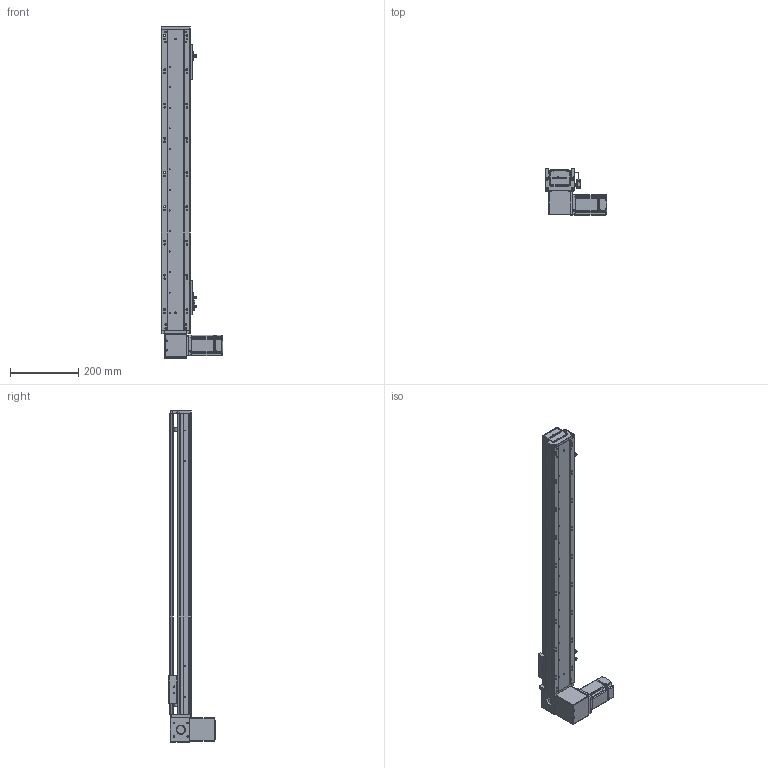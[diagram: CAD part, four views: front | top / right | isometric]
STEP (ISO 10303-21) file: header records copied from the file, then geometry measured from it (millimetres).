
FILE_DESCRIPTION (( 'STEP AP203' ), '1' );
FILE_NAME ('RY80-T-300-DR.SLDASM_700.step', '2021-03-01T01:49:41', ( '盈信电脑' ), ( '东莞市道滘镇水果街19号' ), 'SwSTEP 2.0', 'SolidWorks 2012', '' );
FILE_SCHEMA (( 'CONFIG_CONTROL_DESIGN' ));
Length unit declared in the file: millimetre
Products named in the file (18): RY80-T-M4蹟翐3; RY80-T-300-DR.SLDASM_700; RY80-T萇儂假蚾啣; RY80-T肮祭謫狟殏俋欶; 1; RY80-T肮祭湍揤輸2; RY80-T翋肮祭謫裔啣; 滅袉蝶18-10; RY80-T-上下折同步轮盖板; 覜茼ん672; RY80-T肮祭湍揤輸1; RY80-T-翋肮祭謫釱; RY80俋离覜茼え; RY80-T肮祭謫臏賑輸; RY80-T綴裔啣; RY80-T-300-DR倰第奻裔啣_700; 672嫖萇羲壽假蚾釱; RY80-T-300-DR倰第菁釱_700
Assembly tree (21 placements, depth 2):
  RY80-T-300-DR.SLDASM_700
    RY80-T-300-DR倰第菁釱_700
    RY80-T肮祭謫臏賑輸
    RY80-T-300-DR倰第奻裔啣_700
    RY80-T綴裔啣
    672嫖萇羲壽假蚾釱  x2
    覜茼ん672  x3
    RY80俋离覜茼え
    RY80-T-翋肮祭謫釱
    RY80-T肮祭湍揤輸1
    RY80-T肮祭湍揤輸2
    滅袉蝶18-10  x2
    RY80-T翋肮祭謫裔啣
    RY80-T-上下折同步轮盖板
    RY80-T肮祭謫狟殏俋欶
    RY80-T萇儂假蚾啣
    1
    RY80-T-M4蹟翐3
Bounding box: 180 x 134.5 x 970 mm (x, y, z)
Volume: 1772505.5 mm3; surface area: 730648.1 mm2
Topology: 21 solids, 21 shells, 2483 faces, 6885 edges, 4472 vertices
Faces by surface type: plane 1325, cylinder 960, cone 142, bspline 56
Entity records: 79880 total; most frequent: CARTESIAN_POINT 19936, ORIENTED_EDGE 12414, DIRECTION 11536, EDGE_CURVE 6207, VERTEX_POINT 4076, AXIS2_PLACEMENT_3D 3880, LINE 3776, VECTOR 3776
